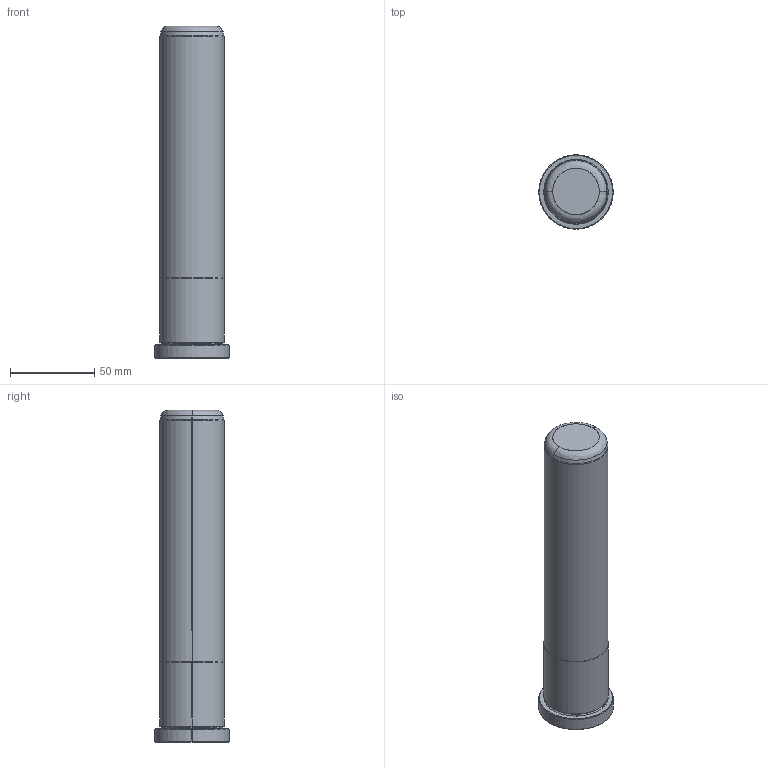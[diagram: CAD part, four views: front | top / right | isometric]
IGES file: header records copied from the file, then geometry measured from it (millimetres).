
Start section: SolidWorks IGES file using analytic representation for surfaces
Global section: file name: C:\Users\365admin\AppData\Local\Temp\InFlowXlateWorking\LP150L7.75.igs; native system: SolidWorks 2018; preprocessor: SolidWorks 2018; author: 365admin; date: 200822.235624; units: inch
Bounding box: 44.2 x 44.2 x 196.85 mm (x, y, z)
Surface area: 26500.7 mm2 (no closed solid volume)
Topology: 0 solids, 0 shells, 26 faces, 472 edges, 472 vertices
Faces by surface type: revolution 16, bspline 10
